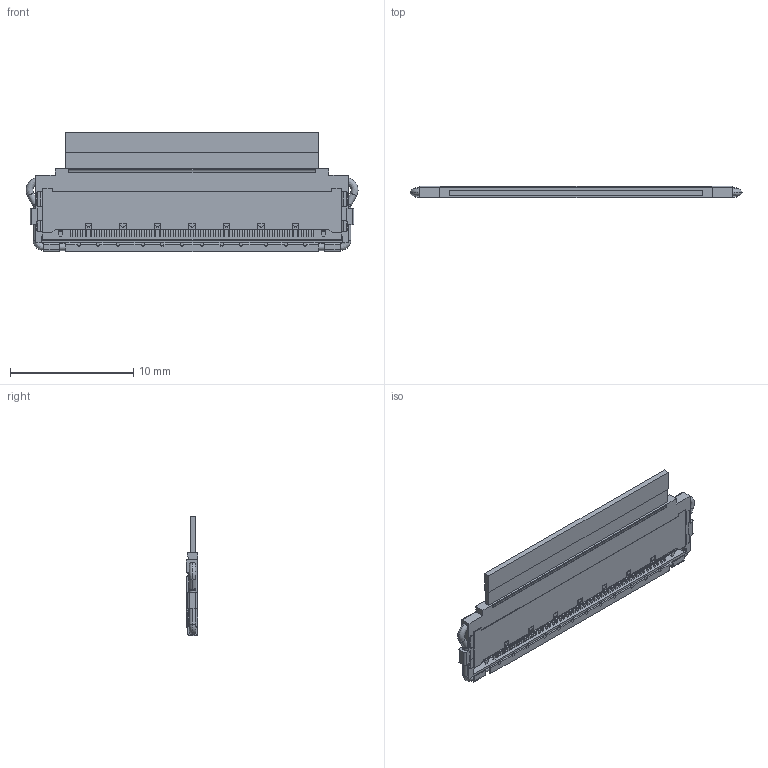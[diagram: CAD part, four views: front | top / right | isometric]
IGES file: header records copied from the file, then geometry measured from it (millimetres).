
Start section: SolidWorks IGES file using analytic representation for surfaces
Global section: file name: C:\3dwork\watanabe\20221102 CABLINE－CAII F中埋めモデル\20221125再提出用\MATING ASS'Y.IGS; native system: SolidWorks 2020; preprocessor: SolidWorks 2020; author: E1480; date: 221125.104846; units: millimetre
Bounding box: 26.95 x 0.96 x 9.7 mm (x, y, z)
Surface area: 643 mm2 (no closed solid volume)
Topology: 0 solids, 0 shells, 1582 faces, 10798 edges, 10798 vertices
Faces by surface type: bspline 1160, revolution 422
